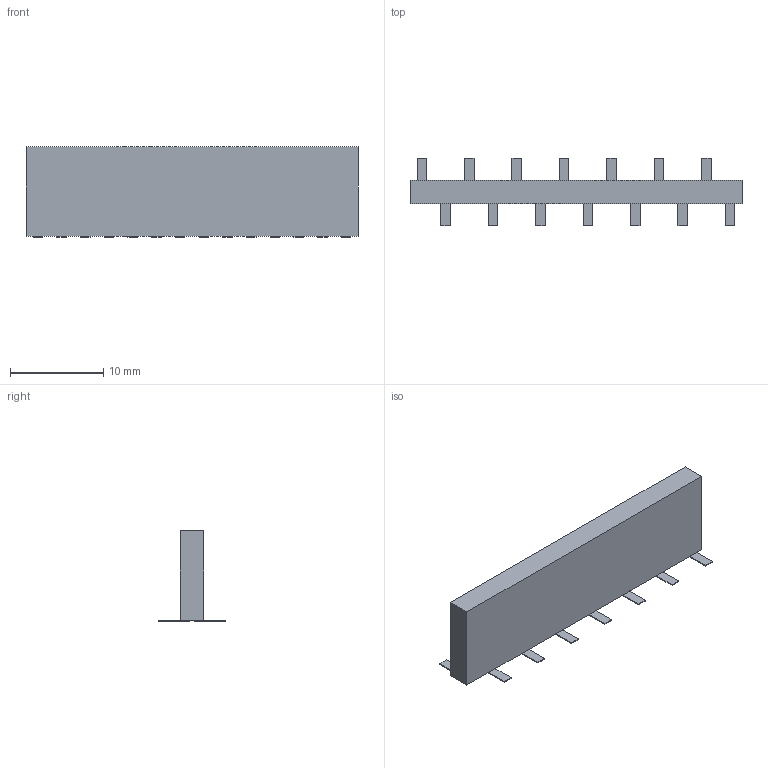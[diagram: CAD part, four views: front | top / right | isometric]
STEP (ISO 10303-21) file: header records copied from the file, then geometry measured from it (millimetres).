
FILE_DESCRIPTION(('FreeCAD Model'),'2;1');
FILE_NAME('/var/www/3D/0T/676842.1.2.stp','2022-06-05T04:23:50',( 'Author'),(''),'Open CASCADE STEP processor 6.9','FreeCAD','Unknown' );
FILE_SCHEMA(('AUTOMOTIVE_DESIGN { 1 0 10303 214 1 1 1 1 }'));
Length unit declared in the file: millimetre
Products named in the file (3): ASSEMBLY; Body; Pins
Assembly tree (2 placements, depth 2):
  ASSEMBLY
    Body
    Pins
Bounding box: 35.56 x 7.25 x 9.7 mm (x, y, z)
Volume: 858.2 mm3; surface area: 1016 mm2
Topology: 15 solids, 15 shells, 90 faces, 180 edges, 120 vertices
Faces by surface type: plane 90
Entity records: 4781 total; most frequent: CARTESIAN_POINT 753, DIRECTION 726, LINE 540, VECTOR 540, ORIENTED_EDGE 360, PCURVE 360, DEFINITIONAL_REPRESENTATION 360, EDGE_CURVE 180
